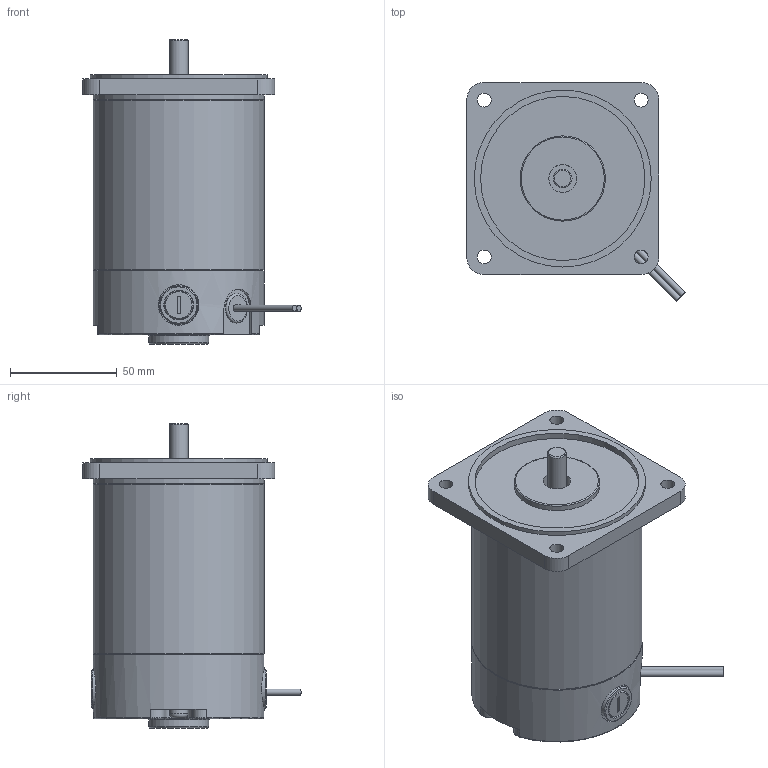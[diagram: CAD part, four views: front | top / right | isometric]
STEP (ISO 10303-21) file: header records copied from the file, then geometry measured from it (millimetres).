
FILE_DESCRIPTION((''),'2;1');
FILE_NAME('C:\Documents and Settings\ycw1227\바탕 화면\S9D40-ㅁBH.stp','2013-06-05T11:06:56',('ycw1227'),(''),'Autodesk Inventor 2011','Autodesk Inventor 2011','');
FILE_SCHEMA(('AUTOMOTIVE_DESIGN { 1 0 10303 214 1 1 1 1 }'));
Length unit declared in the file: millimetre
Products named in the file (1): 부품5
Bounding box: 102.45 x 102.45 x 143 mm (x, y, z)
Volume: 626026 mm3; surface area: 56372.2 mm2
Topology: 1 solids, 3 shells, 163 faces, 378 edges, 245 vertices
Faces by surface type: plane 87, cylinder 46, torus 16, cone 14
Full cylindrical faces by diameter (mm): 3 x2, 5 x2, 6.5 x4, 8.5 x2, 8.71 x1, 9 x1, 13 x1, 13.5 x2, 14 x3, 18 x2, 19 x2, 28 x1, 40 x1, 77 x1, 80 x3, 83 x1
Entity records: 4700 total; most frequent: CARTESIAN_POINT 942, DIRECTION 765, ORIENTED_EDGE 670, EDGE_CURVE 335, AXIS2_PLACEMENT_3D 305, VERTEX_POINT 242, EDGE_LOOP 236, FACE_OUTER_BOUND 163
